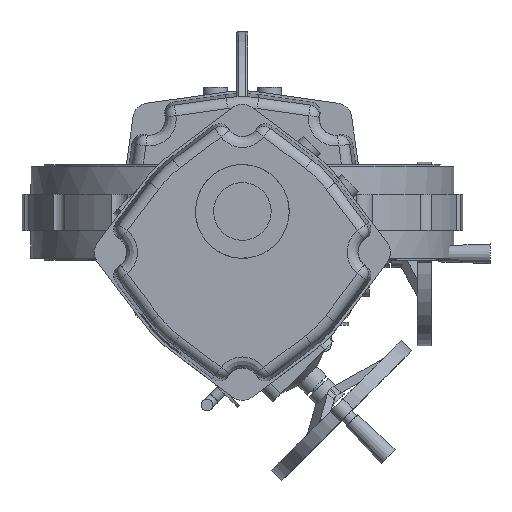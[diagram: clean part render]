
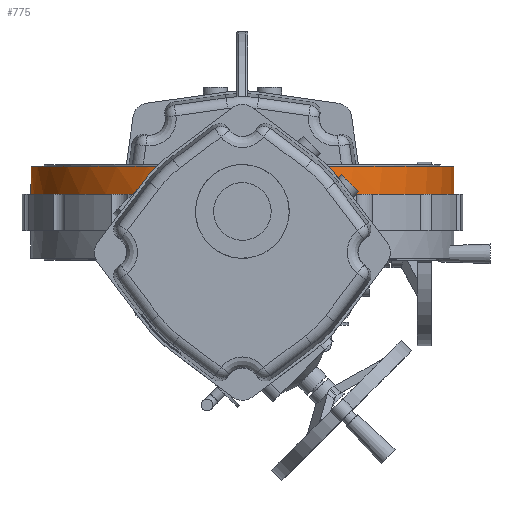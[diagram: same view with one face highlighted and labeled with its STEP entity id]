
A CAD part, top view. The second image highlights one B-rep face of the part: STEP entity #775.
In plain terms, the highlighted cylindrical face has radius 235 mm (diameter 470 mm), a full revolution.
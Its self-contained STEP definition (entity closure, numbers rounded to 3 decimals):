
#775 = ADVANCED_FACE( '', ( #2045, #2046 ), #2047, .T. );
#2045 = FACE_OUTER_BOUND( '', #4464, .T. );
#2046 = FACE_OUTER_BOUND( '', #4465, .T. );
#2047 = CYLINDRICAL_SURFACE( '', #4466, 235. );
#4464 = EDGE_LOOP( '', ( #10873 ) );
#4465 = EDGE_LOOP( '', ( #10874, #10875, #10876, #10877, #10878, #10879, #10880, #10881 ) );
#4466 = AXIS2_PLACEMENT_3D( '', #10882, #10883, #10884 );
#10873 = ORIENTED_EDGE( '', *, *, #15975, .F. );
#10874 = ORIENTED_EDGE( '', *, *, #15976, .T. );
#10875 = ORIENTED_EDGE( '', *, *, #15977, .T. );
#10876 = ORIENTED_EDGE( '', *, *, #15978, .T. );
#10877 = ORIENTED_EDGE( '', *, *, #15979, .T. );
#10878 = ORIENTED_EDGE( '', *, *, #15601, .T. );
#10879 = ORIENTED_EDGE( '', *, *, #15652, .T. );
#10880 = ORIENTED_EDGE( '', *, *, #15980, .T. );
#10881 = ORIENTED_EDGE( '', *, *, #15714, .T. );
#10882 = CARTESIAN_POINT( '', ( 0., -51., 0. ) );
#10883 = DIRECTION( '', ( 0., -1., 0. ) );
#10884 = DIRECTION( '', ( 0., 0., 1. ) );
#15601 = EDGE_CURVE( '', #17696, #17694, #17697, .T. );
#15652 = EDGE_CURVE( '', #17694, #17788, #17790, .F. );
#15714 = EDGE_CURVE( '', #17902, #17899, #17903, .F. );
#15975 = EDGE_CURVE( '', #18359, #18359, #18360, .T. );
#15976 = EDGE_CURVE( '', #17899, #18361, #18362, .T. );
#15977 = EDGE_CURVE( '', #18361, #18363, #18364, .F. );
#15978 = EDGE_CURVE( '', #18363, #18365, #18366, .F. );
#15979 = EDGE_CURVE( '', #18365, #17696, #18367, .F. );
#15980 = EDGE_CURVE( '', #17788, #17902, #18368, .F. );
#17694 = VERTEX_POINT( '', #21150 );
#17696 = VERTEX_POINT( '', #21198 );
#17697 = CIRCLE( '', #21199, 235. );
#17788 = VERTEX_POINT( '', #21388 );
#17790 = ELLIPSE( '', #21445, 497.207, 235. );
#17899 = VERTEX_POINT( '', #21650 );
#17902 = VERTEX_POINT( '', #21694 );
#17903 = ELLIPSE( '', #21695, 497.207, 235. );
#18359 = VERTEX_POINT( '', #23117 );
#18360 = CIRCLE( '', #23118, 235. );
#18361 = VERTEX_POINT( '', #23119 );
#18362 = CIRCLE( '', #23120, 235. );
#18363 = VERTEX_POINT( '', #23121 );
#18364 = ELLIPSE( '', #23122, 497.207, 235. );
#18365 = VERTEX_POINT( '', #23123 );
#18366 = CIRCLE( '', #23124, 235. );
#18367 = ELLIPSE( '', #23125, 497.207, 235. );
#18368 = CIRCLE( '', #23126, 235. );
#21150 = CARTESIAN_POINT( '', ( 42.605, 20., -231.106 ) );
#21198 = CARTESIAN_POINT( '', ( 42.605, 20., 231.106 ) );
#21199 = AXIS2_PLACEMENT_3D( '', #31808, #31809, #31810 );
#21388 = CARTESIAN_POINT( '', ( 29.642, 44., -233.123 ) );
#21445 = AXIS2_PLACEMENT_3D( '', #31864, #31865, #31866 );
#21650 = CARTESIAN_POINT( '', ( -42.605, 20., -231.106 ) );
#21694 = CARTESIAN_POINT( '', ( -29.642, 44., -233.123 ) );
#21695 = AXIS2_PLACEMENT_3D( '', #31942, #31943, #31944 );
#23117 = CARTESIAN_POINT( '', ( 235., 51., 0. ) );
#23118 = AXIS2_PLACEMENT_3D( '', #32214, #32215, #32216 );
#23119 = CARTESIAN_POINT( '', ( -42.605, 20., 231.106 ) );
#23120 = AXIS2_PLACEMENT_3D( '', #32217, #32218, #32219 );
#23121 = CARTESIAN_POINT( '', ( -29.642, 44., 233.123 ) );
#23122 = AXIS2_PLACEMENT_3D( '', #32220, #32221, #32222 );
#23123 = CARTESIAN_POINT( '', ( 29.642, 44., 233.123 ) );
#23124 = AXIS2_PLACEMENT_3D( '', #32223, #32224, #32225 );
#23125 = AXIS2_PLACEMENT_3D( '', #32226, #32227, #32228 );
#23126 = AXIS2_PLACEMENT_3D( '', #32229, #32230, #32231 );
#31808 = CARTESIAN_POINT( '', ( 0., 20., 0. ) );
#31809 = DIRECTION( '', ( 0., 1., 0. ) );
#31810 = DIRECTION( '', ( 1., 0., 0. ) );
#31864 = CARTESIAN_POINT( '', ( 0., 116.539, 0. ) );
#31865 = DIRECTION( '', ( -0.881, -0.473, 0.035 ) );
#31866 = DIRECTION( '', ( -0.472, 0.881, 0.019 ) );
#31942 = CARTESIAN_POINT( '', ( 0., 116.539, 0. ) );
#31943 = DIRECTION( '', ( 0.881, -0.473, 0.035 ) );
#31944 = DIRECTION( '', ( 0.472, 0.881, 0.019 ) );
#32214 = CARTESIAN_POINT( '', ( 0., 51., 0. ) );
#32215 = DIRECTION( '', ( 0., 1., 0. ) );
#32216 = DIRECTION( '', ( 1., 0., 0. ) );
#32217 = CARTESIAN_POINT( '', ( 0., 20., 0. ) );
#32218 = DIRECTION( '', ( 0., 1., 0. ) );
#32219 = DIRECTION( '', ( 1., 0., 0. ) );
#32220 = CARTESIAN_POINT( '', ( 0., 116.539, 0. ) );
#32221 = DIRECTION( '', ( 0.881, -0.473, -0.035 ) );
#32222 = DIRECTION( '', ( 0.472, 0.881, -0.019 ) );
#32223 = CARTESIAN_POINT( '', ( 0., 44., 0. ) );
#32224 = DIRECTION( '', ( 0., -1., 0. ) );
#32225 = DIRECTION( '', ( 0., 0., -1. ) );
#32226 = CARTESIAN_POINT( '', ( 0., 116.539, 0. ) );
#32227 = DIRECTION( '', ( -0.881, -0.473, -0.035 ) );
#32228 = DIRECTION( '', ( -0.472, 0.881, -0.019 ) );
#32229 = CARTESIAN_POINT( '', ( 0., 44., 0. ) );
#32230 = DIRECTION( '', ( 0., -1., 0. ) );
#32231 = DIRECTION( '', ( 0., 0., -1. ) );
